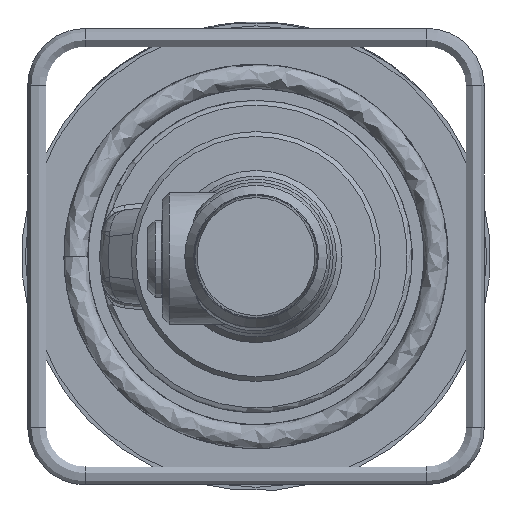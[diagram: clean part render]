
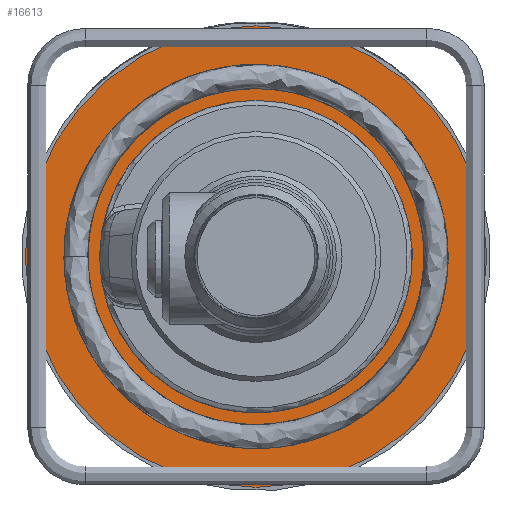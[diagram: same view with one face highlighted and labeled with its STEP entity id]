
A CAD part, left-side view. The second image highlights one B-rep face of the part: STEP entity #16613.
In plain terms, the highlighted planar face has unit normal (-1, 0, 0).
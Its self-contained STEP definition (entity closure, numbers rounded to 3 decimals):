
#3506=PLANE('',#17593);
#3625=FACE_BOUND('',#5683,.T.);
#4560=FACE_OUTER_BOUND('',#5682,.T.);
#5682=EDGE_LOOP('',(#14692));
#5683=EDGE_LOOP('',(#14693));
#6380=CIRCLE('',#17567,63.);
#6393=CIRCLE('',#17594,96.);
#7976=VERTEX_POINT('',#40886);
#7988=VERTEX_POINT('',#40925);
#10259=EDGE_CURVE('',#7976,#7976,#6380,.T.);
#10272=EDGE_CURVE('',#7988,#7988,#6393,.T.);
#14692=ORIENTED_EDGE('',*,*,#10272,.F.);
#14693=ORIENTED_EDGE('',*,*,#10259,.F.);
#16613=ADVANCED_FACE('',(#4560,#3625),#3506,.F.);
#17567=AXIS2_PLACEMENT_3D('',#40887,#20315,#20316);
#17593=AXIS2_PLACEMENT_3D('',#40924,#20367,#20368);
#17594=AXIS2_PLACEMENT_3D('',#40926,#20369,#20370);
#20315=DIRECTION('center_axis',(-1.,0.,0.));
#20316=DIRECTION('ref_axis',(0.,0.,-1.));
#20367=DIRECTION('center_axis',(1.,0.,0.));
#20368=DIRECTION('ref_axis',(0.,1.,0.));
#20369=DIRECTION('center_axis',(1.,0.,0.));
#20370=DIRECTION('ref_axis',(0.,1.,0.));
#40886=CARTESIAN_POINT('',(0.,0.,63.));
#40887=CARTESIAN_POINT('Origin',(0.,0.,
0.));
#40924=CARTESIAN_POINT('Origin',(0.,0.,
0.));
#40925=CARTESIAN_POINT('',(0.,-96.,0.));
#40926=CARTESIAN_POINT('Origin',(0.,0.,
0.));
